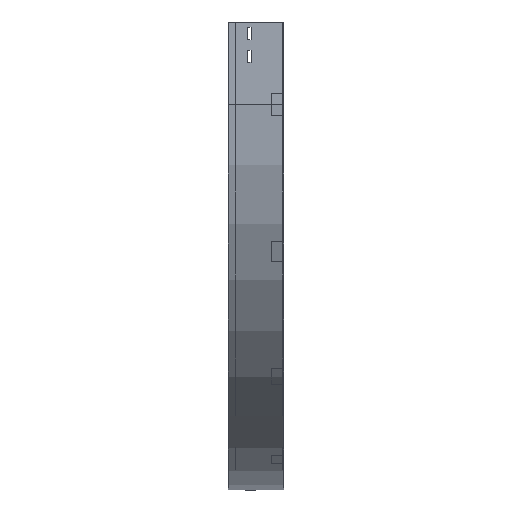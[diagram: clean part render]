
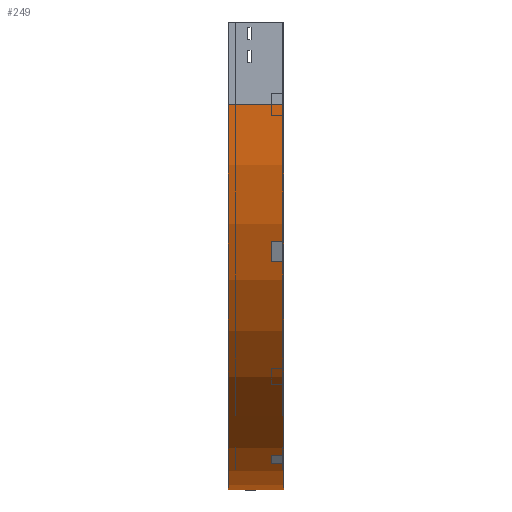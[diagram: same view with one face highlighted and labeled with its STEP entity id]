
A CAD part, left-side view. The second image highlights one B-rep face of the part: STEP entity #249.
In plain terms, the highlighted cylindrical face has radius 700 mm (diameter 1400 mm), a partial arc.
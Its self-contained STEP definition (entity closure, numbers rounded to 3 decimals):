
#199 = ORIENTED_EDGE ( 'NONE', *, *, #3262, .T. ) ;
#202 = CARTESIAN_POINT ( 'NONE',  ( 0., 0., -150. ) ) ;
#208 = DIRECTION ( 'NONE',  ( 0., -1., 0. ) ) ;
#245 = VECTOR ( 'NONE', #208, 1000. ) ;
#249 = ADVANCED_FACE ( 'NONE', ( #3492 ), #2308, .T. ) ;
#262 = LINE ( 'NONE', #2906, #245 ) ;
#303 = CARTESIAN_POINT ( 'NONE',  ( 700., 0., -150. ) ) ;
#342 = AXIS2_PLACEMENT_3D ( 'NONE', #303, #1760, #2945 ) ;
#628 = ORIENTED_EDGE ( 'NONE', *, *, #2607, .T. ) ;
#641 = ORIENTED_EDGE ( 'NONE', *, *, #1814, .F. ) ;
#656 = DIRECTION ( 'NONE',  ( -1., 0., 0. ) ) ;
#779 = CIRCLE ( 'NONE', #342, 700. ) ;
#827 = CARTESIAN_POINT ( 'NONE',  ( 0., 100., -150. ) ) ;
#887 = DIRECTION ( 'NONE',  ( 0., -1., 0. ) ) ;
#1105 = LINE ( 'NONE', #202, #3807 ) ;
#1235 = VERTEX_POINT ( 'NONE', #3681 ) ;
#1271 = AXIS2_PLACEMENT_3D ( 'NONE', #2153, #887, #656 ) ;
#1310 = EDGE_LOOP ( 'NONE', ( #641, #2838, #199, #628 ) ) ;
#1422 = CARTESIAN_POINT ( 'NONE',  ( 700., 0., -150. ) ) ;
#1487 = VERTEX_POINT ( 'NONE', #3312 ) ;
#1592 = VERTEX_POINT ( 'NONE', #3120 ) ;
#1760 = DIRECTION ( 'NONE',  ( 0., -1., 0. ) ) ;
#1814 = EDGE_CURVE ( 'NONE', #1235, #1592, #779, .T. ) ;
#2153 = CARTESIAN_POINT ( 'NONE',  ( 700., 100., -150. ) ) ;
#2308 = CYLINDRICAL_SURFACE ( 'NONE', #2668, 700. ) ;
#2386 = DIRECTION ( 'NONE',  ( 0., -1., 0. ) ) ;
#2607 = EDGE_CURVE ( 'NONE', #1487, #1592, #262, .T. ) ;
#2638 = DIRECTION ( 'NONE',  ( 0., 0., -1. ) ) ;
#2668 = AXIS2_PLACEMENT_3D ( 'NONE', #1422, #2386, #2638 ) ;
#2838 = ORIENTED_EDGE ( 'NONE', *, *, #3043, .F. ) ;
#2906 = CARTESIAN_POINT ( 'NONE',  ( 700., 0., -850. ) ) ;
#2942 = DIRECTION ( 'NONE',  ( 0., -1., 0. ) ) ;
#2945 = DIRECTION ( 'NONE',  ( -1., 0., 0. ) ) ;
#3043 = EDGE_CURVE ( 'NONE', #3097, #1235, #1105, .T. ) ;
#3097 = VERTEX_POINT ( 'NONE', #827 ) ;
#3120 = CARTESIAN_POINT ( 'NONE',  ( 700., 0., -850. ) ) ;
#3262 = EDGE_CURVE ( 'NONE', #3097, #1487, #3346, .T. ) ;
#3312 = CARTESIAN_POINT ( 'NONE',  ( 700., 100., -850. ) ) ;
#3346 = CIRCLE ( 'NONE', #1271, 700. ) ;
#3492 = FACE_OUTER_BOUND ( 'NONE', #1310, .T. ) ;
#3681 = CARTESIAN_POINT ( 'NONE',  ( 0., 0., -150. ) ) ;
#3807 = VECTOR ( 'NONE', #2942, 1000. ) ;
